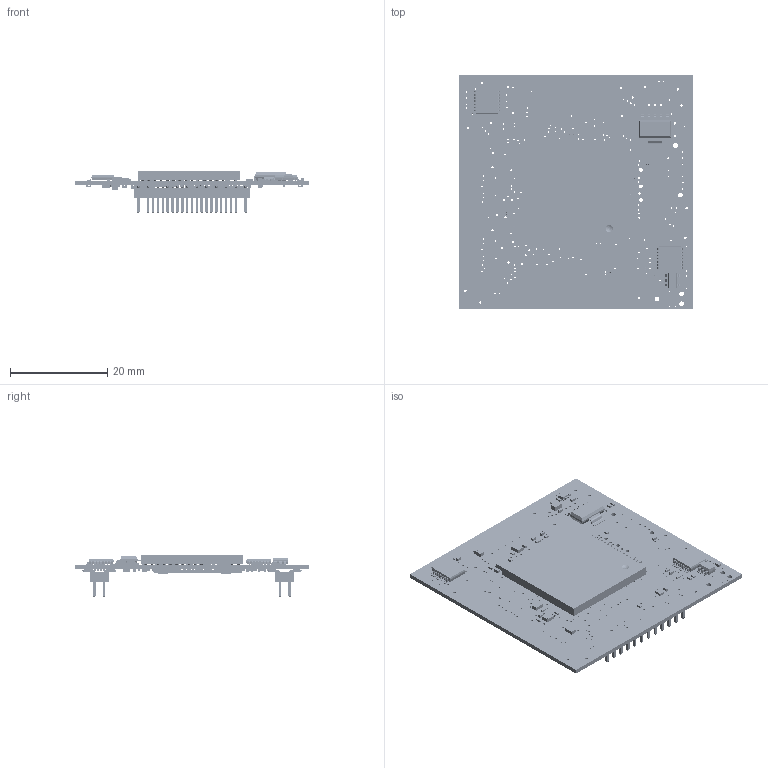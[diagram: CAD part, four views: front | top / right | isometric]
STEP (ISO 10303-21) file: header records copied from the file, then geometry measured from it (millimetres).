
FILE_DESCRIPTION(/* description */ (''),/* implementation_level */ '2;1');
FILE_NAME(/* name */ 'O:/Projects/11110 - PicoPort-E/Documents/Specifications/PicoPort-E 3D.step',/* time_stamp */ '2020-07-22T15:41:53-05:00',/* author */ (''),/* organization */ (''),/* preprocessor_version */ 'ST-DEVELOPER v18.1',/* originating_system */ 'Autodesk Translation Framework v9.3.0.1241',/* authorisation */ '');
FILE_SCHEMA (('AUTOMOTIVE_DESIGN { 1 0 10303 214 3 1 1 }'));
Products named in the file (33): 11100 PicoPort-E; Board; Packages; OSD335X-BGA-256; balls; package; C0402; C0805; TC2030-MCP-NL; TC2070-MCP-NL; TESTPAD/W_HOLE_0.8; TESTPAD_0.5; TMMH-112-XX-XX-DV; _TMMH-112-01-F-DV_body; _TMMH-112-01-F-DV_pins1; _TMMH-112-01-F-DV-sm_pins2; DRILEGEND; DRY6; LAN8710A-QFN32; LDO-SOT223-6; SOP65P640X120-14N; BGA153_P14_P5_11P5X13; 2.00X1.60; ASE; FB0805; LED-SMT; SOD-523; R0402; TMMH-109-XX-XX-DV; _TMMH-109-01-F-DV_body; _TMMH-109-01-F-DV_pins1; _TMMH-109-01-F-DV-sm_pins2; SOT95P270X145-5N
Assembly tree (183 placements, depth 4):
  11100 PicoPort-E
    Board
    Packages
      OSD335X-BGA-256
        balls
        package
      C0402  x40
      C0805  x4
      TC2030-MCP-NL
      TC2070-MCP-NL
      TESTPAD/W_HOLE_0.8  x3
      TESTPAD_0.5  x6
      TMMH-112-XX-XX-DV
        _TMMH-112-01-F-DV_body
        _TMMH-112-01-F-DV_pins1
        _TMMH-112-01-F-DV-sm_pins2
      DRILEGEND
      DRY6  x2
      LAN8710A-QFN32  x2
      LDO-SOT223-6
      SOP65P640X120-14N  x2
      BGA153_P14_P5_11P5X13
      2.00X1.60  x2
      ASE
      FB0805  x2
      LED-SMT
      SOD-523
      R0402  x98
      TMMH-109-XX-XX-DV
        _TMMH-109-01-F-DV_body
        _TMMH-109-01-F-DV_pins1
        _TMMH-109-01-F-DV-sm_pins2
      SOT95P270X145-5N
Bounding box: 48.26 x 48.26 x 8.75 mm (x, y, z)
Volume: 3656.1 mm3; surface area: 9687.5 mm2
Topology: 593 solids, 602 shells, 13795 faces, 42317 edges, 29346 vertices
Faces by surface type: plane 7721, cylinder 4084, sphere 1978, bspline 8, cone 4
Full cylindrical faces by diameter (mm): 0.09 x1, 0.15 x2, 0.178 x1, 0.3 x153, 0.305 x278, 0.483 x43, 0.8 x3, 1.2 x1
Entity records: 103533 total; most frequent: CARTESIAN_POINT 17709, DIRECTION 16849, ORIENTED_EDGE 15792, EDGE_CURVE 7972, LINE 5801, VECTOR 5801, VERTEX_POINT 5596, AXIS2_PLACEMENT_3D 5524
